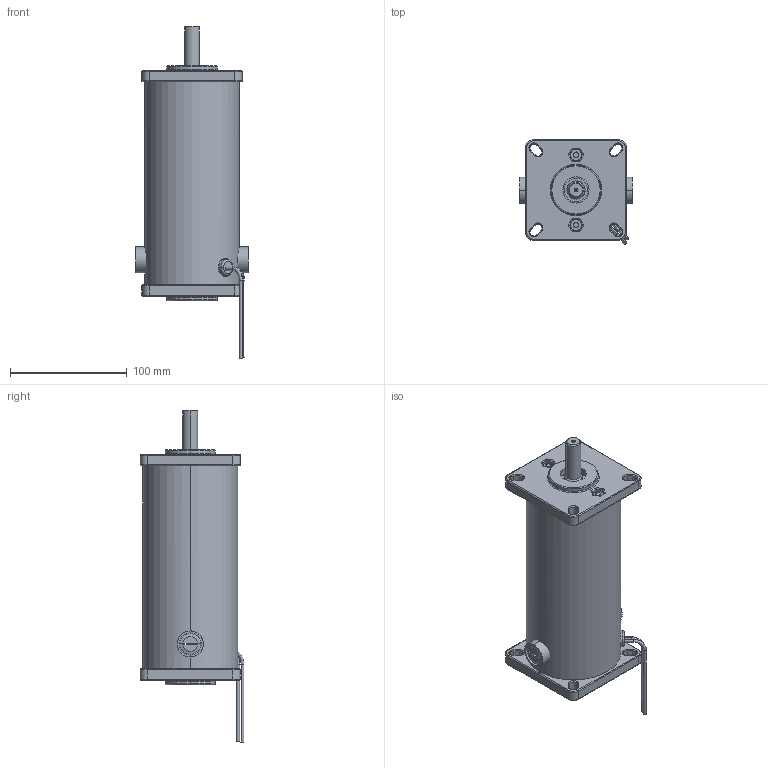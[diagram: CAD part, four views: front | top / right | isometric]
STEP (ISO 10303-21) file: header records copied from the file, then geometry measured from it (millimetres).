
FILE_DESCRIPTION (( 'STEP AP203' ), '1' );
FILE_NAME ('OUTLINE PM8018LV.STEP', '2006-08-10T16:39:53', ( 'Eng-KVV2' ), ( 'Groschopp' ), 'SwSTEP 2.0', 'SolidWorks 2006104', '' );
FILE_SCHEMA (( 'CONFIG_CONTROL_DESIGN' ));
Length unit declared in the file: inch
Products named in the file (1): OUTLINE PM8018LV
Bounding box: 96.27 x 88.77 x 283.97 mm (x, y, z)
Surface area: 89075.9 mm2 (no closed solid volume)
Topology: 0 solids, 24 shells, 406 faces, 1004 edges, 625 vertices
Faces by surface type: cylinder 208, plane 91, torus 84, cone 23
Entity records: 12631 total; most frequent: CARTESIAN_POINT 2664, DIRECTION 2319, ORIENTED_EDGE 1850, EDGE_CURVE 1004, AXIS2_PLACEMENT_3D 954, VERTEX_POINT 625, CIRCLE 547, EDGE_LOOP 453
